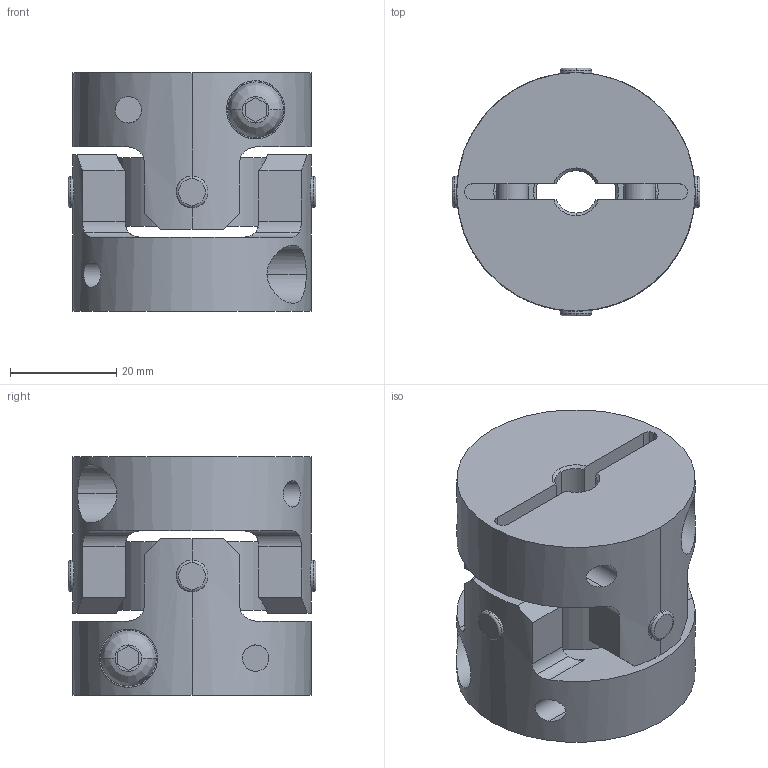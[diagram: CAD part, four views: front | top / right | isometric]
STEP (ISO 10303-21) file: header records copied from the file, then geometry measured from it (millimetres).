
FILE_DESCRIPTION((''),'2;1');
FILE_NAME('UA-45C-8×15.stp','2013-05-22T10:15:05',(''),(''),'AutoCAD STEP 2000i','AutoCAD 2000i',', , ');
FILE_SCHEMA(('CONFIG_CONTROL_DESIGN'));
Length unit declared in the file: millimetre
Products named in the file (6): UA-45C-8×8; 忣兜1; UA-4502-D08-1; BTN-M6; UA-4502-D08; UA45-SEN
Assembly tree (6 placements, depth 3):
  UA-45C-8×8
    忣兜1
    UA-4502-D08-1
      BTN-M6
    UA-4502-D08
      BTN-M6
    UA45-SEN
Bounding box: 46.73 x 46.73 x 45 mm (x, y, z)
Volume: 50218.3 mm3; surface area: 20245.3 mm2
Topology: 1 solids, 1 shells, 206 faces, 554 edges, 364 vertices
Faces by surface type: cylinder 96, plane 78, cone 16, bspline 8, torus 8
Entity records: 8523 total; most frequent: CARTESIAN_POINT 3207, ORIENTED_EDGE 1108, DIRECTION 1064, EDGE_CURVE 554, AXIS2_PLACEMENT_3D 409, VERTEX_POINT 364, VECTOR 246, LINE 246
